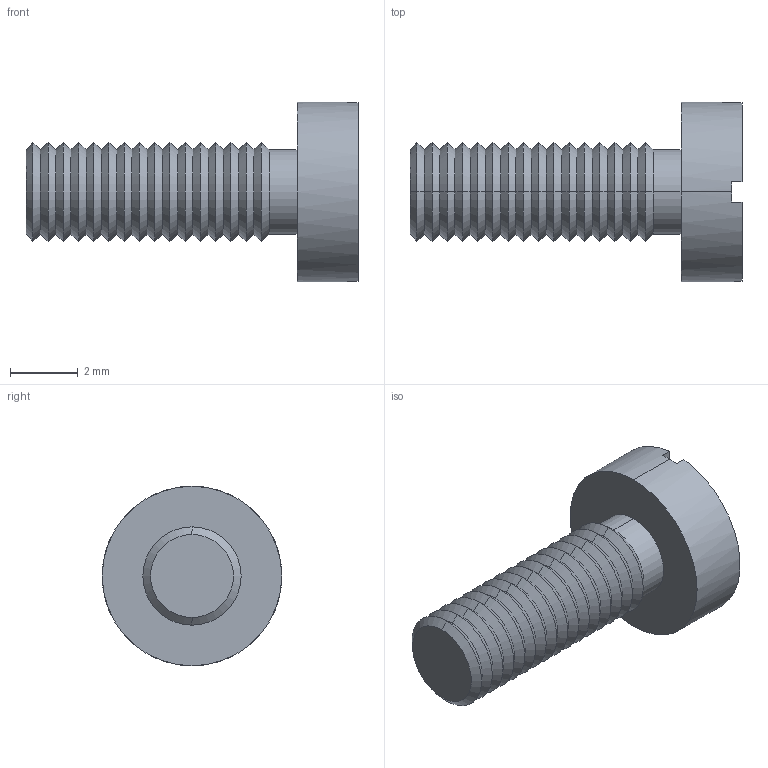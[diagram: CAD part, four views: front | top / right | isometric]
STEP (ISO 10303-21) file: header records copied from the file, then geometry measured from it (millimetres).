
FILE_DESCRIPTION (( 'STEP AP214' ), '1' );
FILE_NAME ('Cargol M 3x8 PP56.STEP', '2016-09-12T18:44:04', ( 'aaa' ), ( '' ), 'SwSTEP 2.0', 'SolidWorks 2013', '' );
FILE_SCHEMA (( 'AUTOMOTIVE_DESIGN' ));
Length unit declared in the file: millimetre
Products named in the file (1): Cargol M 3x8 PP56
Bounding box: 9.8 x 5.3 x 5.3 mm (x, y, z)
Volume: 83.9 mm3; surface area: 164.9 mm2
Topology: 1 solids, 1 shells, 75 faces, 152 edges, 80 vertices
Faces by surface type: cone 64, plane 7, cylinder 4
Entity records: 1944 total; most frequent: DIRECTION 380, CARTESIAN_POINT 308, ORIENTED_EDGE 304, EDGE_CURVE 152, AXIS2_PLACEMENT_3D 152, VERTEX_POINT 80, VECTOR 76, LINE 76
